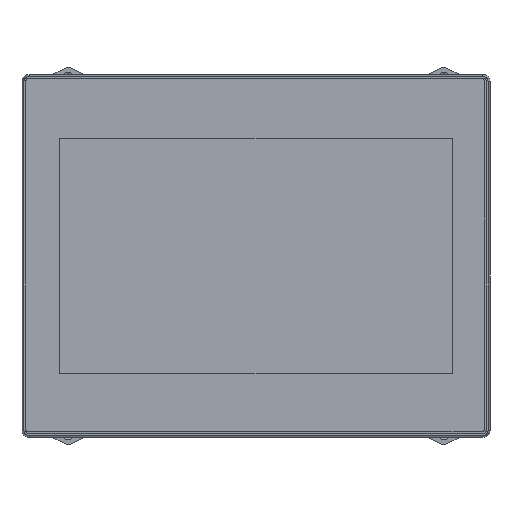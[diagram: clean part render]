
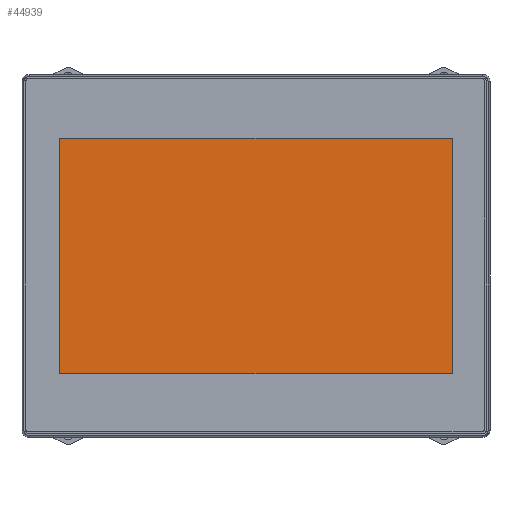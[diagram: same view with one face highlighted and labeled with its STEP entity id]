
A CAD part, top view. The second image highlights one B-rep face of the part: STEP entity #44939.
In plain terms, the highlighted planar face has unit normal (0, 0, 1).
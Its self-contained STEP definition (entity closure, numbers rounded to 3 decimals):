
#16803=DIRECTION('',(0.,-1.,0.));
#16804=VECTOR('',#16803,134.4);
#16805=CARTESIAN_POINT('',(-111.9,67.2,5.738));
#16806=LINE('',#16805,#16804);
#16807=DIRECTION('',(-1.,0.,0.));
#16808=VECTOR('',#16807,223.8);
#16809=CARTESIAN_POINT('',(111.9,67.2,5.738));
#16810=LINE('',#16809,#16808);
#16811=DIRECTION('',(0.,1.,0.));
#16812=VECTOR('',#16811,134.4);
#16813=CARTESIAN_POINT('',(111.9,-67.2,5.738));
#16814=LINE('',#16813,#16812);
#16815=DIRECTION('',(1.,0.,0.));
#16816=VECTOR('',#16815,223.8);
#16817=CARTESIAN_POINT('',(-111.9,-67.2,5.738));
#16818=LINE('',#16817,#16816);
#20823=CARTESIAN_POINT('',(-111.9,67.2,5.738));
#20824=CARTESIAN_POINT('',(-111.9,-67.2,5.738));
#20825=VERTEX_POINT('',#20823);
#20826=VERTEX_POINT('',#20824);
#20827=CARTESIAN_POINT('',(111.9,-67.2,5.738));
#20828=VERTEX_POINT('',#20827);
#20829=CARTESIAN_POINT('',(111.9,67.2,5.738));
#20830=VERTEX_POINT('',#20829);
#44928=CARTESIAN_POINT('',(0.,0.,5.738));
#44929=DIRECTION('',(0.,0.,1.));
#44930=DIRECTION('',(1.,0.,0.));
#44931=AXIS2_PLACEMENT_3D('',#44928,#44929,#44930);
#44932=PLANE('',#44931);
#44933=ORIENTED_EDGE('',*,*,#44880,.F.);
#44934=ORIENTED_EDGE('',*,*,#44895,.F.);
#44935=ORIENTED_EDGE('',*,*,#44909,.F.);
#44936=ORIENTED_EDGE('',*,*,#44922,.F.);
#44937=EDGE_LOOP('',(#44933,#44934,#44935,#44936));
#44938=FACE_OUTER_BOUND('',#44937,.F.);
#44939=ADVANCED_FACE('',(#44938),#44932,.T.);
#44880=EDGE_CURVE('',#20825,#20826,#16806,.T.);
#44895=EDGE_CURVE('',#20830,#20825,#16810,.T.);
#44909=EDGE_CURVE('',#20828,#20830,#16814,.T.);
#44922=EDGE_CURVE('',#20826,#20828,#16818,.T.);
